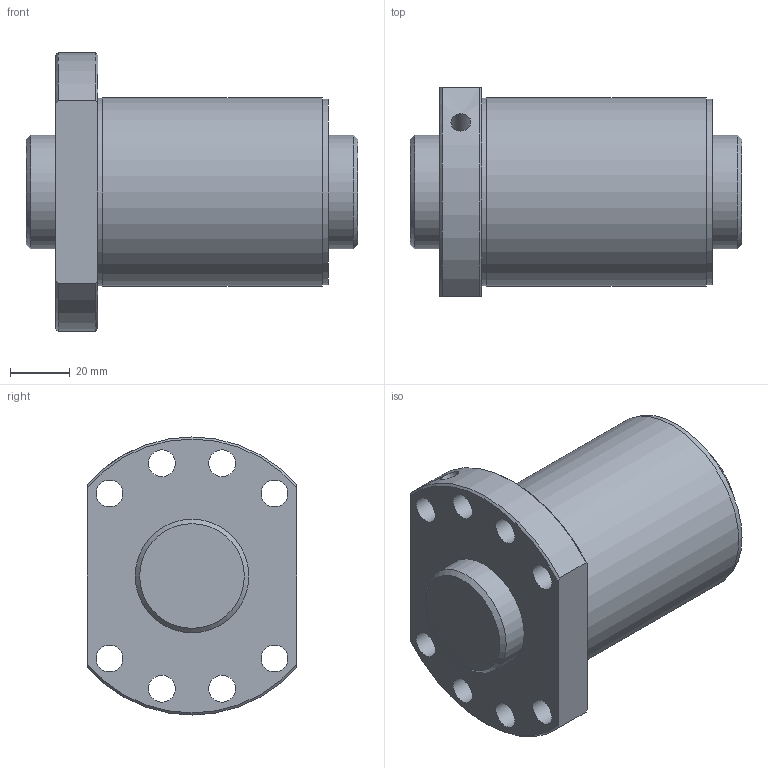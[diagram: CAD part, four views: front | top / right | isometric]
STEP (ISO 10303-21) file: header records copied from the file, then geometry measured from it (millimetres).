
FILE_DESCRIPTION(/* description */ ('STEP AP203'),/* implementation_level */ '2;1');
FILE_NAME(/* name */ 'SDA3816V-5G0+111LC0(0G000)',/* time_stamp */ '2024-05-28T11:33:49+02:00',/* author */ ('License CC BY-ND 4.0'),/* organization */ ('CADENAS'),/* preprocessor_version */ 'ST-DEVELOPER v19.3',/* originating_system */ 'PARTsolutions',/* authorisation */ ' ');
FILE_SCHEMA (('CONFIG_CONTROL_DESIGN'));
Length unit declared in the file: millimetre
Products named in the file (3): SDA3816V-5G0+111LC0(0G000); 000SDA3816V-50Shaft; SDA-V serieSDA3816V-5nut
Assembly tree (2 placements, depth 2):
  SDA3816V-5G0+111LC0(0G000)
    000SDA3816V-50Shaft
    SDA-V serieSDA3816V-5nut
Bounding box: 111 x 70 x 93 mm (x, y, z)
Volume: 335733.7 mm3; surface area: 57303.9 mm2
Topology: 2 solids, 2 shells, 33 faces, 75 edges, 49 vertices
Faces by surface type: cylinder 17, plane 9, cone 7
Full cylindrical faces by diameter (mm): 5.2 x1, 6.647 x1, 9 x8, 38 x2, 62 x1, 62.6 x1, 63 x1
Entity records: 983 total; most frequent: CARTESIAN_POINT 184, DIRECTION 156, ORIENTED_EDGE 112, EDGE_LOOP 74, FACE_BOUND 74, AXIS2_PLACEMENT_3D 74, EDGE_CURVE 56, VERTEX_POINT 48
